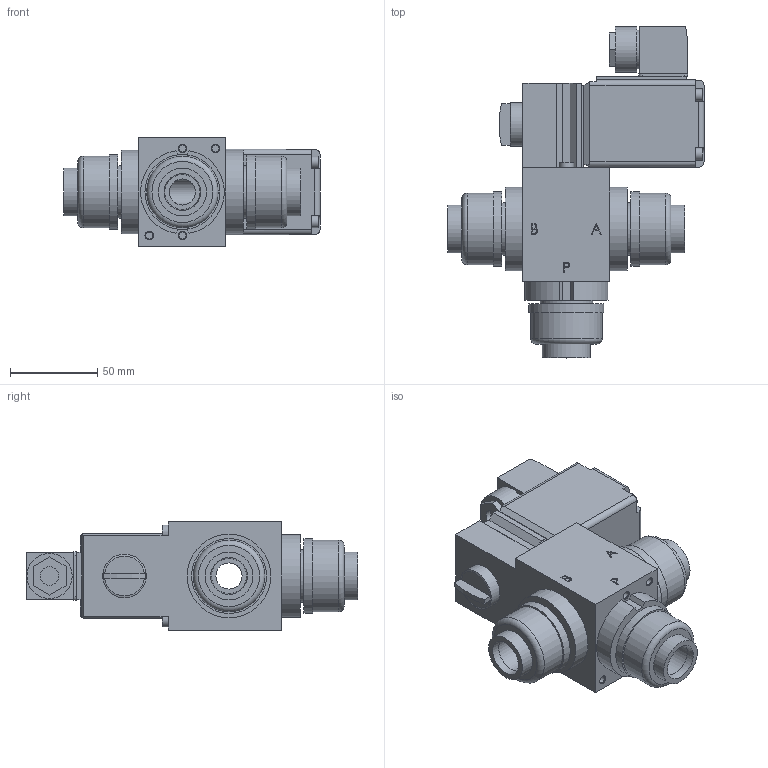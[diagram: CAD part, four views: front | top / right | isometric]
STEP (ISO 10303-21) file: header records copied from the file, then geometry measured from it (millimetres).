
FILE_DESCRIPTION( ( 'STEP AP214' ), '1' );
FILE_NAME( 'p:/temp/worker_18/temp/app_55_02018110105482228137738192d056f_000000_00_00_000000/format_0/0131-058279-Direct-acting_2_2_or_3_2_way_toggle_valves.stp', '2018-11-01T04:48:23', ( '' ), ( '' ), ' ', 'PARTsolutions', ' ' );
FILE_SCHEMA( ( 'AUTOMOTIVE_DESIGN { 1 0 10303 214 1 1 1 1 }' ) );
Length unit declared in the file: millimetre
Products named in the file (1): HI_0131-058279-Direct-acting 2/2 or 3/2 way toggle valves
Bounding box: 147 x 190.5 x 62 mm (x, y, z)
Volume: 603616.5 mm3; surface area: 79989.8 mm2
Topology: 1 solids, 1 shells, 225 faces, 531 edges, 348 vertices
Faces by surface type: plane 154, cylinder 60, torus 6, cone 4, sphere 1
Full cylindrical faces by diameter (mm): 4.134 x4, 7 x4, 8.5 x2, 10.5 x1, 15 x2, 20.2 x3, 22.3 x1, 25 x1, 26 x1, 27.5 x3, 30 x3, 41 x3, 43 x3, 48 x2
Entity records: 7994 total; most frequent: DIRECTION 1088, CARTESIAN_POINT 1046, ORIENTED_EDGE 958, EDGE_CURVE 479, AXIS2_PLACEMENT_3D 383, VERTEX_POINT 341, LINE 322, VECTOR 322
